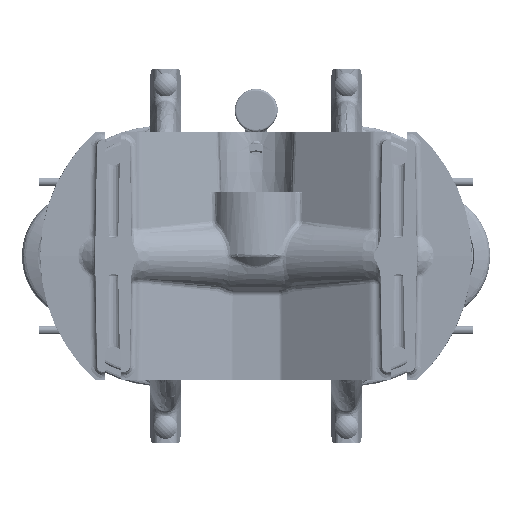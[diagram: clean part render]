
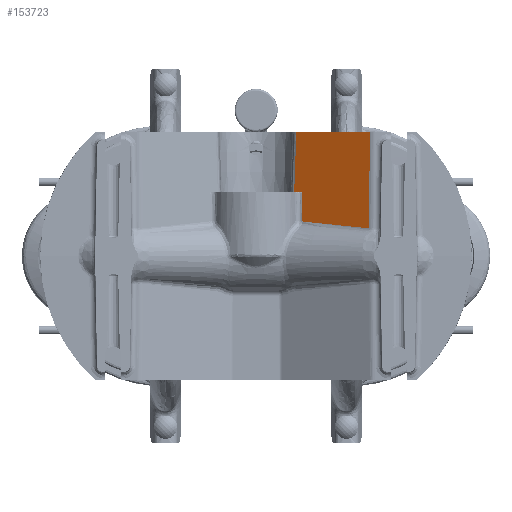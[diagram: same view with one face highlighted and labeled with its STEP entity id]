
A CAD part, front view. The second image highlights one B-rep face of the part: STEP entity #153723.
In plain terms, the highlighted planar face has unit normal (-0.515, -0.857, 0.018).
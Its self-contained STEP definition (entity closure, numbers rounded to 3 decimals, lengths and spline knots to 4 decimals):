
#4873 = CARTESIAN_POINT ( 'NONE',  ( 1.4178, -5.8644, 1.0611 ) ) ;
#11498 = EDGE_CURVE ( 'NONE', #12613, #220499, #167914, .T. ) ;
#12613 = VERTEX_POINT ( 'NONE', #342596 ) ;
#23564 = CARTESIAN_POINT ( 'NONE',  ( 1.4178, -5.8644, 1.0611 ) ) ;
#24692 = ORIENTED_EDGE ( 'NONE', *, *, #323469, .T. ) ;
#27463 = EDGE_CURVE ( 'NONE', #409329, #295813, #218980, .T. ) ;
#33075 = CARTESIAN_POINT ( 'NONE',  ( 1.4257, -5.8511, 1.95 ) ) ;
#51970 = DIRECTION ( 'NONE',  ( 0.857, -0.515, 0. ) ) ;
#64712 = CARTESIAN_POINT ( 'NONE',  ( 3.3234, -7.0135, 0.8646 ) ) ;
#69430 = CARTESIAN_POINT ( 'NONE',  ( 1.4231, -5.8556, 1.6537 ) ) ;
#89519 = ORIENTED_EDGE ( 'NONE', *, *, #11498, .T. ) ;
#91406 = CARTESIAN_POINT ( 'NONE',  ( 1.2395, -5.7013, 3.8125 ) ) ;
#92511 = CARTESIAN_POINT ( 'NONE',  ( 1.2321, -5.7011, 3.6055 ) ) ;
#93649 = VERTEX_POINT ( 'NONE', #218359 ) ;
#96206 = CARTESIAN_POINT ( 'NONE',  ( 3.4752, -7.1051, 0.8464 ) ) ;
#101857 = EDGE_CURVE ( 'NONE', #266077, #409329, #177665, .T. ) ;
#107924 = CARTESIAN_POINT ( 'NONE',  ( 3.4315, -7.0787, 0.8514 ) ) ;
#108574 = AXIS2_PLACEMENT_3D ( 'NONE', #249119, #208042, #140151 ) ;
#122557 = ORIENTED_EDGE ( 'NONE', *, *, #101857, .T. ) ;
#125342 = CARTESIAN_POINT ( 'NONE',  ( 3.439, -7.0832, 0.8506 ) ) ;
#126853 = CARTESIAN_POINT ( 'NONE',  ( 3.4752, -7.1051, 0.8464 ) ) ;
#128824 = CARTESIAN_POINT ( 'NONE',  ( 1.2173, -5.7006, 3.1915 ) ) ;
#130765 = VECTOR ( 'NONE', #351890, 39.3701 ) ;
#139204 = CARTESIAN_POINT ( 'NONE',  ( 3.4752, -7.1051, 0.8464 ) ) ;
#140151 = DIRECTION ( 'NONE',  ( -0.857, 0.515, 0. ) ) ;
#140908 = EDGE_CURVE ( 'NONE', #395336, #266077, #312067, .T. ) ;
#142131 = CARTESIAN_POINT ( 'NONE',  ( 3.1312, -6.8975, 0.8877 ) ) ;
#153723 = ADVANCED_FACE ( 'NONE', ( #435467 ), #244368, .T. ) ;
#155064 = EDGE_CURVE ( 'NONE', #394937, #395336, #475269, .T. ) ;
#167914 = LINE ( 'NONE', #306022, #130765 ) ;
#170504 = CARTESIAN_POINT ( 'NONE',  ( 1.1728, -5.6992, 1.95 ) ) ;
#171307 = CARTESIAN_POINT ( 'NONE',  ( 3.4167, -7.0698, 0.8531 ) ) ;
#176006 = CARTESIAN_POINT ( 'NONE',  ( 1.4204, -5.86, 1.3575 ) ) ;
#177665 = B_SPLINE_CURVE_WITH_KNOTS ( 'NONE', 3,
 ( #400830, #439528, #291933, #107924, #205589, #257987 ),
 .UNSPECIFIED., .F., .F.,
 ( 4, 1, 1, 4 ),
 ( 0., 0.3333, 0.6667, 1. ),
 .UNSPECIFIED. ) ;
#203880 = CARTESIAN_POINT ( 'NONE',  ( 1.1803, -5.6994, 2.1569 ) ) ;
#205589 = CARTESIAN_POINT ( 'NONE',  ( 3.4365, -7.0817, 0.8509 ) ) ;
#208042 = DIRECTION ( 'NONE',  ( -0.515, -0.857, 0.017 ) ) ;
#217083 = CARTESIAN_POINT ( 'NONE',  ( 1.4178, -5.8644, 1.0611 ) ) ;
#218359 = CARTESIAN_POINT ( 'NONE',  ( 1.1728, -5.6992, 1.95 ) ) ;
#218980 = B_SPLINE_CURVE_WITH_KNOTS ( 'NONE', 3,
 ( #125342, #284911, #427857, #287308, #314125, #96206 ),
 .UNSPECIFIED., .F., .F.,
 ( 4, 1, 1, 4 ),
 ( 0., 0.3333, 0.6667, 1. ),
 .UNSPECIFIED. ) ;
#220499 = VERTEX_POINT ( 'NONE', #91406 ) ;
#240169 = CARTESIAN_POINT ( 'NONE',  ( 1.1951, -5.6999, 2.5707 ) ) ;
#244368 = PLANE ( 'NONE',  #108574 ) ;
#249119 = CARTESIAN_POINT ( 'NONE',  ( 0.2404, -5.101, 3.8125 ) ) ;
#249726 = B_SPLINE_CURVE_WITH_KNOTS ( 'NONE', 3,
 ( #387801, #92511, #128824, #240169, #203880, #419343 ),
 .UNSPECIFIED., .F., .F.,
 ( 4, 1, 1, 4 ),
 ( 0., 0.3333, 0.6667, 1. ),
 .UNSPECIFIED. ) ;
#257987 = CARTESIAN_POINT ( 'NONE',  ( 3.439, -7.0832, 0.8506 ) ) ;
#266077 = VERTEX_POINT ( 'NONE', #457776 ) ;
#283059 = EDGE_CURVE ( 'NONE', #220499, #93649, #249726, .T. ) ;
#284911 = CARTESIAN_POINT ( 'NONE',  ( 3.443, -7.0857, 0.8502 ) ) ;
#287308 = CARTESIAN_POINT ( 'NONE',  ( 3.4632, -7.0978, 0.8479 ) ) ;
#291933 = CARTESIAN_POINT ( 'NONE',  ( 3.4241, -7.0742, 0.8522 ) ) ;
#295813 = VERTEX_POINT ( 'NONE', #126853 ) ;
#303308 = CARTESIAN_POINT ( 'NONE',  ( 1.4257, -5.8511, 1.95 ) ) ;
#305951 = ORIENTED_EDGE ( 'NONE', *, *, #283059, .T. ) ;
#306022 = CARTESIAN_POINT ( 'NONE',  ( 3.4896, -7.0533, 3.8125 ) ) ;
#312067 = B_SPLINE_CURVE_WITH_KNOTS ( 'NONE', 3,
 ( #23564, #398688, #476102, #323687, #360033, #364807, #142131, #64712, #171307 ),
 .UNSPECIFIED., .F., .F.,
 ( 4, 1, 1, 1, 1, 1, 4 ),
 ( 0., 0.1667, 0.3333, 0.5, 0.6667, 0.8333, 1. ),
 .UNSPECIFIED. ) ;
#314125 = CARTESIAN_POINT ( 'NONE',  ( 3.4712, -7.1027, 0.8469 ) ) ;
#323166 = LINE ( 'NONE', #139204, #380585 ) ;
#323469 = EDGE_CURVE ( 'NONE', #93649, #394937, #390771, .T. ) ;
#323687 = CARTESIAN_POINT ( 'NONE',  ( 2.1609, -6.3124, 0.9918 ) ) ;
#342596 = CARTESIAN_POINT ( 'NONE',  ( 3.4896, -7.0533, 3.8125 ) ) ;
#351890 = DIRECTION ( 'NONE',  ( -0.857, 0.515, 0. ) ) ;
#360033 = CARTESIAN_POINT ( 'NONE',  ( 2.503, -6.5187, 0.957 ) ) ;
#360719 = ORIENTED_EDGE ( 'NONE', *, *, #140908, .T. ) ;
#362375 = CARTESIAN_POINT ( 'NONE',  ( 1.4186, -5.863, 1.1599 ) ) ;
#364275 = DIRECTION ( 'NONE',  ( 0.005, 0.017, 1. ) ) ;
#364807 = CARTESIAN_POINT ( 'NONE',  ( 2.8264, -6.7137, 0.9222 ) ) ;
#380585 = VECTOR ( 'NONE', #364275, 39.3701 ) ;
#386679 = ORIENTED_EDGE ( 'NONE', *, *, #27463, .T. ) ;
#387801 = CARTESIAN_POINT ( 'NONE',  ( 1.2395, -5.7013, 3.8125 ) ) ;
#390771 = LINE ( 'NONE', #170504, #403227 ) ;
#394937 = VERTEX_POINT ( 'NONE', #303308 ) ;
#395336 = VERTEX_POINT ( 'NONE', #4873 ) ;
#398420 = EDGE_CURVE ( 'NONE', #295813, #12613, #323166, .T. ) ;
#398688 = CARTESIAN_POINT ( 'NONE',  ( 1.5472, -5.9425, 1.0496 ) ) ;
#400830 = CARTESIAN_POINT ( 'NONE',  ( 3.4167, -7.0698, 0.8531 ) ) ;
#403227 = VECTOR ( 'NONE', #51970, 39.3701 ) ;
#409329 = VERTEX_POINT ( 'NONE', #455040 ) ;
#416868 = EDGE_LOOP ( 'NONE', ( #360719, #122557, #386679, #454077, #89519, #305951, #24692, #431069 ) ) ;
#419343 = CARTESIAN_POINT ( 'NONE',  ( 1.1728, -5.6992, 1.95 ) ) ;
#427857 = CARTESIAN_POINT ( 'NONE',  ( 3.4511, -7.0905, 0.8493 ) ) ;
#431069 = ORIENTED_EDGE ( 'NONE', *, *, #155064, .T. ) ;
#435467 = FACE_OUTER_BOUND ( 'NONE', #416868, .T. ) ;
#439528 = CARTESIAN_POINT ( 'NONE',  ( 3.4192, -7.0712, 0.8528 ) ) ;
#454077 = ORIENTED_EDGE ( 'NONE', *, *, #398420, .T. ) ;
#455040 = CARTESIAN_POINT ( 'NONE',  ( 3.439, -7.0832, 0.8506 ) ) ;
#457776 = CARTESIAN_POINT ( 'NONE',  ( 3.4167, -7.0698, 0.8531 ) ) ;
#475269 = B_SPLINE_CURVE_WITH_KNOTS ( 'NONE', 3,
 ( #33075, #476052, #69430, #176006, #362375, #217083 ),
 .UNSPECIFIED., .F., .F.,
 ( 4, 1, 1, 4 ),
 ( 0., 0.3333, 0.6667, 1. ),
 .UNSPECIFIED. ) ;
#476052 = CARTESIAN_POINT ( 'NONE',  ( 1.4248, -5.8526, 1.8513 ) ) ;
#476102 = CARTESIAN_POINT ( 'NONE',  ( 1.8, -6.0948, 1.0266 ) ) ;
